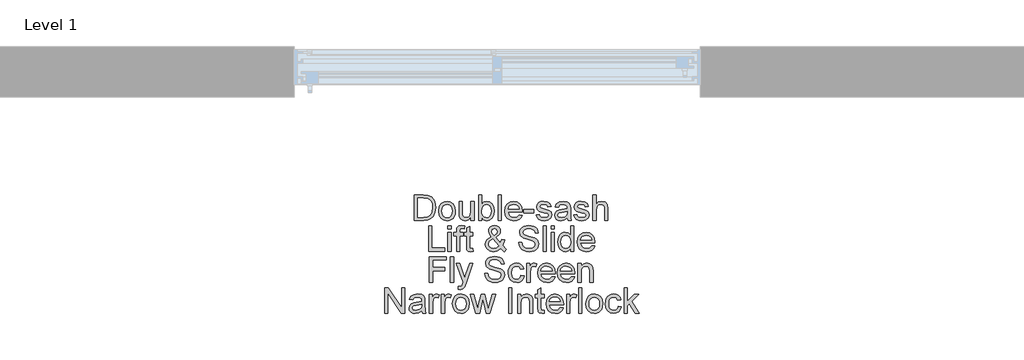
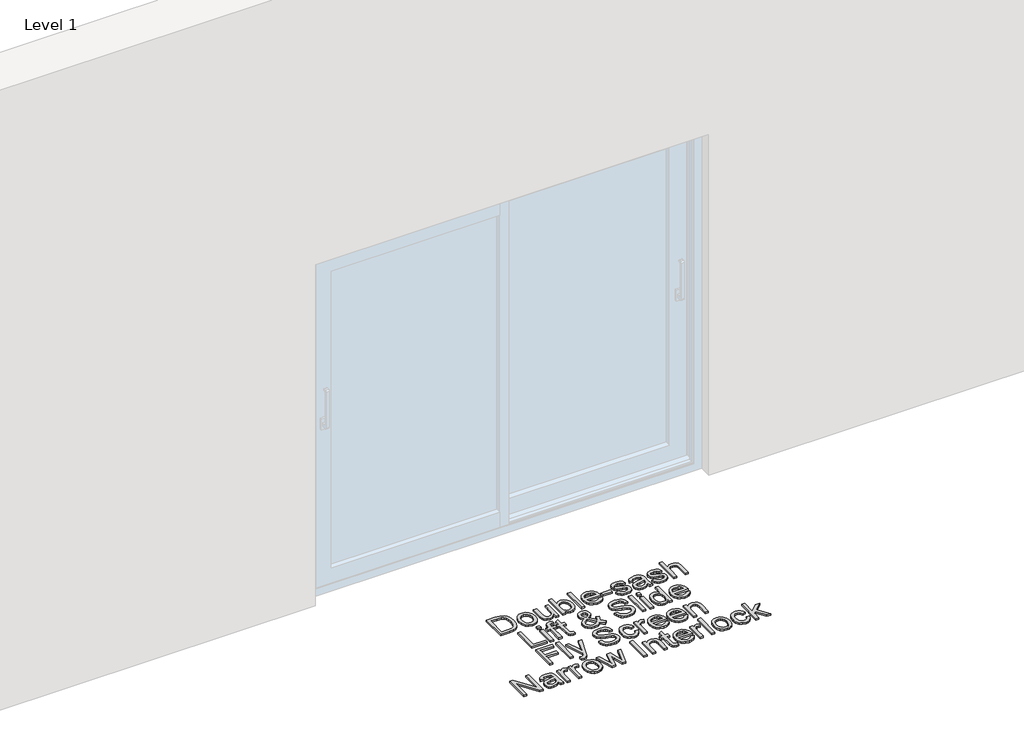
# One storey, part 6 of 13: 1 proxy.
"""IFC4 building model written with IfcOpenShell, lengths in millimetres."""

from ifc_helpers import new_model, si_unit, origin, origin_with_axes, place, context, project, spatial, polyline, outline, extrude, element, save

model = new_model("IFC4")

# Units and contexts
model_context = context("Model", 3, world=origin())
ifc_project = project(units=[si_unit("LENGTHUNIT", "METRE", prefix="MILLI")], contexts=[model_context])

# Site, building, storey
site = spatial("IfcSite", under=ifc_project)
building = spatial("IfcBuilding", under=site)
storey = spatial("IfcBuildingStorey", under=building, Name="Level 1", Elevation=0.0)

# Proxy
placement = place(None, origin())
element("IfcBuildingElementProxy", 1, Name="150mm Arial", ObjectType="150mm Arial", at=placement, inside=storey, context=model_context, shape_type="SweptSolid", body=[
    extrude(outline(polyline([(7088.4009515, -897.6627533), (7088.4009515, -746.9782881), (7140.3826774, -746.9782881), (7167.2748513, -749.1487919), (7189.4213474, -759.9277343), (7199.8416049, -771.4056526), (7207.2636242, -785.679474), (7211.7057993, -802.4732871), (7213.1865243, -821.5111803), (7209.1766105, -851.9166272), (7198.8759147, -873.8607883), (7185.1171281, -887.5276044), (7167.1093044, -895.0875794), (7142.884275, -897.6627533), (7088.4009515, -897.6627533)]), holes=[polyline([(7107.2365097, -878.8271952), (7140.5666184, -878.8271952), (7164.8100419, -876.1048684), (7178.7895577, -868.4161347), (7190.2490819, -849.7093353), (7194.3509661, -821.2168747), (7192.3414107, -800.6890594), (7186.3127445, -785.5323212), (7177.4054017, -775.1212607), (7166.7598165, -768.8304786), (7140.0515836, -765.8138463), (7107.2365097, -765.8138463), (7107.2365097, -878.8271952)])]), origin_with_axes(), (0.0, 0.0, 1.0), 10.0),
    extrude(outline(polyline([(7232.0220824, -842.3333013), (7236.0963755, -815.6526596), (7248.3192548, -796.8998749), (7263.4208107, -787.712022), (7281.5022108, -784.6494044), (7301.2896636, -788.3788081), (7317.0947938, -799.5670193), (7327.4552705, -817.3311212), (7330.9087627, -840.7881969), (7329.3820525, -859.8168931), (7324.8019216, -874.3022466), (7317.3017274, -885.150167), (7307.0148272, -893.2665635), (7294.7965464, -898.3295395), (7281.5022108, -900.0171981), (7261.4756347, -896.30159), (7245.6888986, -885.1547655), (7235.4387865, -867.0181831), (7232.0220824, -842.3333013)]), holes=[polyline([(7250.8576406, -842.2965131), (7253.0373414, -859.343245), (7259.5764439, -871.4879494), (7269.4172873, -878.7582173), (7281.5022108, -881.18164), (7293.531952, -878.7444217), (7303.3544013, -871.4327671), (7309.8935038, -859.1271143), (7312.0732046, -841.7079019), (7309.8797082, -825.1578106), (7303.299219, -813.1786531), (7293.4629742, -805.9083852), (7281.5022108, -803.4849626), (7269.4172873, -805.8991882), (7259.5764439, -813.141865), (7253.0373414, -825.2589782), (7250.8576406, -842.2965131)])]), origin_with_axes(), (0.0, 0.0, 1.0), 10.0),
    extrude(outline(polyline([(7422.7321087, -897.6627533), (7422.7321087, -878.6432542), (7407.9800407, -894.6737121), (7388.7398124, -900.0171981), (7371.0262943, -896.2648018), (7358.8126121, -886.8470227), (7353.2024117, -872.9778715), (7352.0987657, -855.4666885), (7352.0987657, -787.0038492), (7370.9343238, -787.0038492), (7370.9343238, -846.6007324), (7372.074758, -865.8041726), (7379.5243684, -877.0797557), (7393.5590665, -881.18164), (7409.2860218, -876.9877852), (7419.6786882, -865.5650493), (7422.7321087, -844.5773814), (7422.7321087, -787.0038492), (7441.5676669, -787.0038492), (7441.5676669, -897.6627533), (7422.7321087, -897.6627533)])), origin_with_axes(), (0.0, 0.0, 1.0), 10.0),
    extrude(outline(polyline([(7486.3021175, -897.6627533), (7467.4665594, -897.6627533), (7467.4665594, -746.9782881), (7486.3021175, -746.9782881), (7486.3021175, -802.8595632), (7499.490687, -789.2019441), (7515.8798299, -784.6494044), (7534.7521763, -788.7512887), (7549.3938797, -800.2843892), (7558.3885945, -818.2186365), (7561.6443501, -840.6778323), (7558.2736313, -865.8225667), (7548.161475, -884.5293661), (7533.322035, -896.1452401), (7515.7694653, -900.0171981), (7499.0216375, -895.0232), (7486.3021175, -880.0412058), (7486.3021175, -897.6627533)]), holes=[polyline([(7486.3021175, -841.5607491), (7487.5897045, -857.2693103), (7491.4524654, -867.9010999), (7501.3209, -877.861505), (7514.1507845, -881.18164), (7525.0216975, -878.7352247), (7534.3107179, -871.3959789), (7540.6842734, -859.2098878), (7542.808792, -842.2229367), (7540.7716454, -824.9876652), (7534.6602058, -812.9395299), (7525.6608925, -805.8486044), (7514.9601249, -803.4849626), (7504.089212, -805.9313778), (7494.8001916, -813.2706236), (7488.426636, -825.2359855), (7486.3021175, -841.5607491)])]), origin_with_axes(), (0.0, 0.0, 1.0), 10.0),
    extrude(outline(polyline([(7582.834353, -897.6627533), (7582.834353, -746.9782881), (7601.6699112, -746.9782881), (7601.6699112, -897.6627533), (7582.834353, -897.6627533)])), origin_with_axes(), (0.0, 0.0, 1.0), 10.0),
    extrude(outline(polyline([(7707.3991966, -864.7005266), (7725.8668728, -867.0549713), (7719.2128072, -880.9701078), (7708.5948131, -891.3719712), (7694.2520138, -897.8558914), (7676.4235326, -900.0171981), (7654.3230218, -896.2877944), (7637.3176765, -885.0995832), (7626.4743547, -867.1791315), (7622.8599141, -843.2530063), (7626.5111429, -818.5221391), (7637.4648293, -800.0268718), (7654.2402483, -788.4937713), (7675.3566748, -784.6494044), (7695.8155123, -788.4845742), (7712.1632684, -799.9900836), (7722.8824301, -818.4485627), (7726.455484, -843.1426417), (7726.3451194, -848.2194132), (7641.6954723, -848.2194132), (7644.9558265, -862.3184907), (7652.529597, -872.6835659), (7663.4602908, -879.0571214), (7676.7914146, -881.18164), (7695.2590908, -877.2453026), (7707.3991966, -864.7005266)]), holes=[polyline([(7641.6954723, -829.383855), (7707.6199258, -829.383855), (7705.072343, -819.4326471), (7700.0783449, -812.3141305), (7689.0970674, -805.6922545), (7675.2830984, -803.4849626), (7662.5865711, -805.2461976), (7652.0881386, -810.5299028), (7644.7902796, -818.765861), (7641.6954723, -829.383855)])]), origin_with_axes(), (0.0, 0.0, 1.0), 10.0),
    extrude(outline(polyline([(7735.873263, -852.9283027), (7735.873263, -834.0927446), (7794.7343823, -834.0927446), (7794.7343823, -852.9283027), (7735.873263, -852.9283027)])), origin_with_axes(), (0.0, 0.0, 1.0), 10.0),
    extrude(outline(polyline([(7808.8610509, -864.7005266), (7827.696609, -862.3460818), (7830.6672561, -870.4026975), (7836.4154123, -876.3255976), (7856.3914047, -881.18164), (7875.5948448, -876.7302678), (7881.8488387, -866.2824192), (7880.2761432, -861.4815591), (7875.5580566, -857.8211333), (7856.1706755, -852.4500561), (7827.8069736, -843.2346122), (7815.4277445, -832.4740638), (7811.2154956, -817.2805374), (7814.60001, -803.2458393), (7823.8338481, -792.5220791), (7835.808407, -786.9486669), (7852.0136089, -784.6494044), (7874.9326572, -788.3466185), (7889.5007842, -798.3530087), (7895.9755073, -815.2571864), (7877.1399492, -817.6116312), (7870.0582208, -807.2189648), (7853.4851369, -803.4849626), (7835.4589191, -807.0534179), (7830.0510538, -815.367551), (7832.295134, -820.8489927), (7839.3216801, -825.0060593), (7855.5452761, -829.015973), (7883.191608, -837.8819291), (7896.0306896, -847.9251076), (7900.6843969, -864.2958564), (7895.2213492, -882.3220741), (7879.4576058, -895.4002791), (7856.1338873, -900.0171981), (7837.1419793, -897.791512), (7823.2820251, -891.1144538), (7814.0297929, -880.0595999), (7808.8610509, -864.7005266)])), origin_with_axes(), (0.0, 0.0, 1.0), 10.0),
    extrude(outline(polyline([(7992.5077429, -883.5360847), (7974.2424018, -896.30159), (7954.0640744, -900.0171981), (7938.3233235, -897.782315), (7926.712048, -891.0776656), (7919.5521447, -880.8965314), (7917.1655103, -868.2321937), (7920.7707538, -853.3329729), (7930.2437152, -842.5172423), (7943.4322847, -836.3368247), (7959.7294571, -833.5041334), (7992.3973783, -827.0294103), (7992.5077429, -822.8355555), (7991.2109588, -814.4294519), (7987.3206067, -808.9296161), (7978.6201976, -804.846126), (7966.4984858, -803.4849626), (7947.4421985, -807.1086002), (7938.3555132, -819.966076), (7919.519955, -817.6116312), (7927.6685412, -799.2175314), (7944.0760782, -788.438589), (7968.926507, -784.6494044), (7991.7535848, -787.9971306), (8004.6478487, -796.4032342), (8010.423596, -809.1871335), (8011.343301, -825.6682469), (8011.343301, -849.10233), (8012.2997942, -881.8254334), (8016.0521906, -897.6627533), (7997.2166324, -897.6627533), (7992.5077429, -883.5360847)]), holes=[polyline([(7992.5077429, -845.8649684), (7962.1206901, -851.6407157), (7945.9154882, -854.6941363), (7938.5762424, -859.6605432), (7936.0010684, -866.9078185), (7941.6112688, -877.0981498), (7958.0739881, -881.18164), (7977.1302755, -876.6750855), (7989.4175341, -865.7673844), (7992.3973783, -851.1992574), (7992.5077429, -845.8649684)])]), origin_with_axes(), (0.0, 0.0, 1.0), 10.0),
    extrude(outline(polyline([(8030.1788592, -864.7005266), (8049.0144173, -862.3460818), (8051.9850644, -870.4026975), (8057.7332206, -876.3255976), (8077.709213, -881.18164), (8096.9126531, -876.7302678), (8103.166647, -866.2824192), (8101.5939515, -861.4815591), (8096.8758649, -857.8211333), (8077.4884838, -852.4500561), (8049.1247819, -843.2346122), (8036.7455528, -832.4740638), (8032.5333039, -817.2805374), (8035.9178183, -803.2458393), (8045.1516564, -792.5220791), (8057.1262153, -786.9486669), (8073.3314172, -784.6494044), (8096.2504655, -788.3466185), (8110.8185925, -798.3530087), (8117.2933156, -815.2571864), (8098.4577575, -817.6116312), (8091.3760291, -807.2189648), (8074.8029452, -803.4849626), (8056.7767274, -807.0534179), (8051.3688621, -815.367551), (8053.6129423, -820.8489927), (8060.6394884, -825.0060593), (8076.8630844, -829.015973), (8104.5094163, -837.8819291), (8117.3484979, -847.9251076), (8122.0022052, -864.2958564), (8116.5391575, -882.3220741), (8100.7754141, -895.4002791), (8077.4516956, -900.0171981), (8058.4597876, -897.791512), (8044.5998334, -891.1144538), (8035.3476012, -880.0595999), (8030.1788592, -864.7005266)])), origin_with_axes(), (0.0, 0.0, 1.0), 10.0),
    extrude(outline(polyline([(8143.1922081, -897.6627533), (8143.1922081, -746.9782881), (8162.0277662, -746.9782881), (8162.0277662, -802.3813166), (8176.7154549, -789.0823825), (8194.806052, -784.6494044), (8215.9592667, -789.4870527), (8228.7983484, -802.8595632), (8232.6611093, -827.6180215), (8232.6611093, -897.6627533), (8213.8255512, -897.6627533), (8213.8255512, -829.567796), (8212.326432, -817.7771781), (8207.8290746, -809.7021683), (8200.5817993, -805.039264), (8190.8329265, -803.4849626), (8175.4002768, -807.6788173), (8165.0995809, -819.046371), (8162.0277662, -838.8752105), (8162.0277662, -897.6627533), (8143.1922081, -897.6627533)])), origin_with_axes(), (0.0, 0.0, 1.0), 10.0),
    extrude(outline(polyline([(7173.1609632, -1080.6249801), (7173.1609632, -929.9405149), (7191.9965214, -929.9405149), (7191.9965214, -1061.789422), (7267.338754, -1061.789422), (7267.338754, -1080.6249801), (7173.1609632, -1080.6249801)])), origin_with_axes(), (0.0, 0.0, 1.0), 10.0),
    extrude(outline(polyline([(7286.1743121, -948.776073), (7286.1743121, -929.9405149), (7305.0098703, -929.9405149), (7305.0098703, -948.776073), (7286.1743121, -948.776073)])), origin_with_axes(), (0.0, 0.0, 1.0), 10.0),
    extrude(outline(polyline([(7286.1743121, -1080.6249801), (7286.1743121, -969.966076), (7305.0098703, -969.966076), (7305.0098703, -1080.6249801), (7286.1743121, -1080.6249801)])), origin_with_axes(), (0.0, 0.0, 1.0), 10.0),
    extrude(outline(polyline([(7337.9720971, -1080.6249801), (7337.9720971, -988.8016341), (7321.4909837, -988.8016341), (7321.4909837, -969.966076), (7337.9720971, -969.966076), (7337.9720971, -958.8192515), (7339.9586598, -943.1106903), (7349.5971681, -931.8902895), (7368.5798791, -927.5860701), (7385.7599682, -929.6462093), (7383.0008533, -947.3045451), (7372.1483344, -946.4216283), (7360.2841401, -949.5486252), (7356.8076552, -961.2104845), (7356.8076552, -969.966076), (7377.9976581, -969.966076), (7377.9976581, -988.8016341), (7356.8076552, -988.8016341), (7356.8076552, -1080.6249801), (7337.9720971, -1080.6249801)])), origin_with_axes(), (0.0, 0.0, 1.0), 10.0),
    extrude(outline(polyline([(7434.5043326, -1064.9164189), (7436.8587774, -1081.1768031), (7422.7688969, -1082.9794249), (7406.9867593, -1079.8524279), (7399.1140847, -1071.6486594), (7396.8332163, -1050.2747155), (7396.8332163, -988.8016341), (7382.7065477, -988.8016341), (7382.7065477, -969.966076), (7396.8332163, -969.966076), (7396.8332163, -943.0739021), (7415.6687744, -932.0006541), (7415.6687744, -969.966076), (7434.5043326, -969.966076), (7434.5043326, -988.8016341), (7415.6687744, -988.8016341), (7415.6687744, -1049.7228925), (7416.6620558, -1059.4349772), (7419.8810233, -1062.8746738), (7426.3005641, -1064.1438667), (7434.5043326, -1064.9164189)])), origin_with_axes(), (0.0, 0.0, 1.0), 10.0),
    extrude(outline(polyline([(7598.6164906, -1062.0101512), (7578.6404983, -1077.7371064), (7555.2799916, -1082.9794249), (7534.4946589, -1079.0982698), (7518.4917921, -1067.4548047), (7510.2420383, -1054.054703), (7507.4921204, -1039.1646793), (7509.7040109, -1025.9669127), (7516.3396824, -1014.1119154), (7527.3715437, -1003.6088844), (7542.7720038, -994.4670168), (7529.6202224, -975.4107295), (7526.3276786, -961.2840609), (7528.9212467, -948.5645409), (7536.7019508, -937.6292486), (7548.4097953, -930.0968647), (7562.7847843, -927.5860701), (7576.4607975, -929.9865001), (7587.3960898, -937.1877902), (7594.5697887, -947.7552005), (7596.9610217, -960.2539913), (7595.1905896, -970.7478252), (7589.8792933, -980.4507128), (7568.634108, -997.4836492), (7595.8941639, -1031.4391574), (7604.024356, -1010.5802482), (7622.8599141, -1014.6637384), (7609.5425859, -1045.6761906), (7632.2776932, -1068.4848743), (7618.1510246, -1082.9794249), (7598.6164906, -1062.0101512)]), holes=[polyline([(7559.1059644, -985.6010608), (7574.5937964, -973.9208074), (7578.1254635, -962.8291653), (7573.4717563, -951.0017591), (7561.8282911, -946.4216283), (7549.9273086, -950.9649709), (7545.1632367, -962.0566131), (7546.7819175, -968.9544005), (7551.6747481, -976.6247401), (7559.1059644, -985.6010608)]), polyline([(7585.9981382, -1048.4353055), (7552.3737238, -1006.4599699), (7531.6803616, -1022.2421075), (7526.3276786, -1036.6630817), (7528.1578915, -1045.5474319), (7533.6485303, -1054.7628758), (7542.4960923, -1061.798619), (7554.3970748, -1064.1438667), (7571.7059227, -1059.766071), (7585.9981382, -1048.4353055)])]), origin_with_axes(), (0.0, 0.0, 1.0), 10.0),
    extrude(outline(polyline([(7705.265481, -1028.8271952), (7724.1010392, -1028.8271952), (7730.1710921, -1047.6811474), (7744.9967365, -1059.6005241), (7767.584691, -1064.1438667), (7787.2663778, -1060.7041701), (7799.9767007, -1051.2496028), (7804.1521613, -1038.6128563), (7801.0251644, -1026.8590265), (7788.222871, -1018.3057701), (7760.7972682, -1011.1136771), (7731.2747381, -1001.8246567), (7715.2534772, -987.8083527), (7709.9743706, -969.0831592), (7711.6068469, -958.0512978), (7716.504276, -947.7643976), (7724.5378991, -939.0455943), (7735.5789574, -932.7180239), (7763.5012009, -927.5860701), (7793.2996425, -932.9571472), (7804.7223784, -939.5882202), (7813.1652702, -948.7392848), (7818.5087562, -959.840124), (7820.6332747, -972.3205207), (7801.7977166, -972.3205207), (7798.3396258, -961.0817258), (7791.1291387, -952.9699278), (7779.8627526, -948.0587031), (7764.2369649, -946.4216283), (7748.2432951, -948.040309), (7737.2712146, -952.8963514), (7730.9252502, -960.0424591), (7728.8099287, -968.5313362), (7730.3090479, -975.7694144), (7734.8064053, -981.591147), (7765.56134, -992.1125721), (7798.8914488, -1001.5671393), (7809.6290045, -1008.4005474), (7817.1200017, -1016.8342421), (7821.52079, -1026.7762531), (7822.9877195, -1038.1346097), (7821.3000608, -1049.7458851), (7816.2370849, -1060.6673819), (7808.0057252, -1070.0667668), (7796.8129155, -1077.1117071), (7783.353033, -1081.5124954), (7768.320455, -1082.9794249), (7749.8665744, -1081.3975323), (7734.6776466, -1076.6518546), (7722.5789274, -1068.7239976), (7713.3956731, -1057.5955672), (7707.5003642, -1044.0391157), (7705.265481, -1028.8271952)])), origin_with_axes(), (0.0, 0.0, 1.0), 10.0),
    extrude(outline(polyline([(7848.886612, -1080.6249801), (7848.886612, -929.9405149), (7867.7221701, -929.9405149), (7867.7221701, -1080.6249801), (7848.886612, -1080.6249801)])), origin_with_axes(), (0.0, 0.0, 1.0), 10.0),
    extrude(outline(polyline([(7895.9755073, -948.776073), (7895.9755073, -929.9405149), (7914.8110655, -929.9405149), (7914.8110655, -948.776073), (7895.9755073, -948.776073)])), origin_with_axes(), (0.0, 0.0, 1.0), 10.0),
    extrude(outline(polyline([(7895.9755073, -1080.6249801), (7895.9755073, -969.966076), (7914.8110655, -969.966076), (7914.8110655, -1080.6249801), (7895.9755073, -1080.6249801)])), origin_with_axes(), (0.0, 0.0, 1.0), 10.0),
    extrude(outline(polyline([(8011.343301, -1080.6249801), (8011.343301, -1062.8562797), (7998.8812984, -1077.9486386), (7981.655224, -1082.9794249), (7969.47833, -1081.158409), (7958.3315055, -1075.6953614), (7948.8953323, -1066.9719596), (7941.8503921, -1055.3698811), (7937.4633993, -1041.3581756), (7936.0010684, -1025.4058926), (7941.3905396, -995.42351), (7948.1227802, -983.5317245), (7957.5405592, -974.7853301), (7968.9311055, -969.4050559), (7981.5816476, -967.6116312), (7998.9456778, -972.743585), (8011.343301, -986.0793073), (8011.343301, -929.9405149), (8030.1788592, -929.9405149), (8030.1788592, -1080.6249801), (8011.343301, -1080.6249801)]), holes=[polyline([(7954.8366266, -1025.3323162), (7956.9611451, -1042.3698511), (7963.3347007, -1054.4869644), (7972.5961299, -1061.7296411), (7983.3842694, -1064.1438667), (7994.1678104, -1061.8400057), (8003.1947148, -1054.9284227), (8009.3061545, -1043.2803591), (8011.343301, -1026.767056), (8009.2693663, -1008.7132471), (8003.047562, -996.1960622), (7993.7907313, -988.8844076), (7982.6117172, -986.4471893), (7971.7132131, -988.7878385), (7962.7828777, -995.8097861), (7956.8231893, -1007.871717), (7954.8366266, -1025.3323162)])]), origin_with_axes(), (0.0, 0.0, 1.0), 10.0),
    extrude(outline(polyline([(8135.9081446, -1047.6627533), (8154.3758208, -1050.0171981), (8147.7217552, -1063.9323346), (8137.1037611, -1074.334198), (8122.7609618, -1080.8181182), (8104.9324806, -1082.9794249), (8082.8319697, -1079.2500212), (8065.8266245, -1068.06181), (8054.9833027, -1050.1413583), (8051.3688621, -1026.215233), (8055.0200909, -1001.4843659), (8065.9737773, -982.9890986), (8082.7491963, -971.455998), (8103.8656228, -967.6116312), (8124.3244603, -971.446801), (8140.6722164, -982.9523104), (8151.3913781, -1001.4107895), (8154.9644319, -1026.1048684), (8154.8540673, -1031.18164), (8070.2044203, -1031.18164), (8073.4647744, -1045.2807174), (8081.038545, -1055.6457926), (8091.9692388, -1062.0193482), (8105.3003626, -1064.1438667), (8123.7680388, -1060.2075294), (8135.9081446, -1047.6627533)]), holes=[polyline([(8070.2044203, -1012.3460818), (8136.1288738, -1012.3460818), (8133.581291, -1002.3948738), (8128.5872929, -995.2763572), (8117.6060153, -988.6544813), (8103.7920464, -986.4471893), (8091.0955191, -988.2084244), (8080.5970866, -993.4921296), (8073.2992275, -1001.7280877), (8070.2044203, -1012.3460818)])]), origin_with_axes(), (0.0, 0.0, 1.0), 10.0),
    extrude(outline(polyline([(7176.6926304, -1263.5872069), (7176.6926304, -1112.9027417), (7277.9337554, -1112.9027417), (7277.9337554, -1131.7382998), (7195.5281885, -1131.7382998), (7195.5281885, -1176.4727504), (7266.1615316, -1176.4727504), (7266.1615316, -1195.3083086), (7195.5281885, -1195.3083086), (7195.5281885, -1263.5872069), (7176.6926304, -1263.5872069)])), origin_with_axes(), (0.0, 0.0, 1.0), 10.0),
    extrude(outline(polyline([(7301.4782031, -1263.5872069), (7301.4782031, -1112.9027417), (7320.3137613, -1112.9027417), (7320.3137613, -1263.5872069), (7301.4782031, -1263.5872069)])), origin_with_axes(), (0.0, 0.0, 1.0), 10.0),
    extrude(outline(polyline([(7348.5670985, -1305.9672127), (7346.2126537, -1287.8306304), (7355.7775856, -1289.4860993), (7364.7171181, -1287.4075661), (7370.1985598, -1281.6134246), (7375.3489078, -1267.7442734), (7376.8204357, -1263.1825367), (7336.7948747, -1152.9283027), (7356.6605024, -1152.9283027), (7377.8872935, -1214.3645959), (7385.2817216, -1238.9391132), (7392.6761497, -1217.2340755), (7414.4915521, -1152.9283027), (7434.210027, -1152.9283027), (7395.6927821, -1266.2359572), (7385.6863918, -1290.8104745), (7374.7602966, -1304.0910145), (7360.081805, -1308.3216575), (7348.5670985, -1305.9672127)])), origin_with_axes(), (0.0, 0.0, 1.0), 10.0),
    extrude(outline(polyline([(7503.9604533, -1211.789422), (7522.7960114, -1211.789422), (7528.8660644, -1230.6433742), (7543.6917088, -1242.5627509), (7566.2796633, -1247.1060935), (7585.96135, -1243.6663968), (7598.6716729, -1234.2118296), (7602.8471336, -1221.575083), (7599.7201366, -1209.8212533), (7586.9178432, -1201.2679969), (7559.4922404, -1194.0759039), (7529.9697103, -1184.7868835), (7513.9484494, -1170.7705795), (7508.6693428, -1152.0453859), (7510.3018192, -1141.0135246), (7515.1992482, -1130.7266243), (7523.2328713, -1122.007821), (7534.2739297, -1115.6802507), (7562.1961731, -1110.5482969), (7591.9946147, -1115.919374), (7603.4173507, -1122.550447), (7611.8602425, -1131.7015116), (7617.2037284, -1142.8023508), (7619.328247, -1155.2827475), (7600.4926888, -1155.2827475), (7597.0345981, -1144.0439525), (7589.824111, -1135.9321546), (7578.5577248, -1131.0209299), (7562.9319371, -1129.383855), (7546.9382674, -1131.0025358), (7535.9661869, -1135.8585782), (7529.6202224, -1143.0046859), (7527.504901, -1151.4935629), (7529.0040201, -1158.7316412), (7533.5013775, -1164.5533738), (7564.2563123, -1175.0747988), (7597.5864211, -1184.5293661), (7608.3239768, -1191.3627742), (7615.8149739, -1199.7964689), (7620.2157623, -1209.7384798), (7621.6826917, -1221.0968364), (7619.9950331, -1232.7081119), (7614.9320571, -1243.6296086), (7606.7006975, -1253.0289936), (7595.5078878, -1260.0739338), (7582.0480053, -1264.4747222), (7567.0154273, -1265.9416516), (7548.5615467, -1264.3597591), (7533.3726188, -1259.6140813), (7521.2738997, -1251.6862243), (7512.0906454, -1240.557794), (7506.1953364, -1227.0013425), (7503.9604533, -1211.789422)])), origin_with_axes(), (0.0, 0.0, 1.0), 10.0),
    extrude(outline(polyline([(7718.2149273, -1223.5616458), (7737.0504854, -1225.9160906), (7731.7989699, -1242.6685169), (7721.9305354, -1255.3282561), (7708.3740839, -1263.2883028), (7692.0585174, -1265.9416516), (7672.0227442, -1262.2398391), (7656.3555698, -1251.1344013), (7646.2434134, -1233.1127821), (7642.8726947, -1208.662425), (7644.312033, -1191.9008016), (7648.6300479, -1177.3740613), (7655.8957173, -1165.6432242), (7666.1780191, -1157.2693103), (7678.4790733, -1152.247721), (7691.801, -1150.573858), (7707.7164948, -1152.8731204), (7720.4406133, -1159.7709078), (7729.5686853, -1170.8993382), (7734.6960407, -1185.8905295), (7715.8604825, -1188.2449743), (7707.1232851, -1174.1366998), (7691.9481528, -1169.4094161), (7679.7758573, -1171.7362697), (7670.1143564, -1178.7168306), (7663.8097787, -1190.7281777), (7661.7082528, -1208.1473902), (7663.7637935, -1225.8011274), (7669.9304154, -1237.8538613), (7679.4171724, -1244.7930354), (7691.433118, -1247.1060935), (7701.1865894, -1245.6621567), (7709.1834243, -1241.3303462), (7715.0005583, -1234.0002974), (7718.2149273, -1223.5616458)])), origin_with_axes(), (0.0, 0.0, 1.0), 10.0),
    extrude(outline(polyline([(7753.5315988, -1263.5872069), (7753.5315988, -1152.9283027), (7770.0127122, -1152.9283027), (7770.0127122, -1169.2990515), (7781.7113596, -1154.2158897), (7793.4835835, -1150.573858), (7812.392718, -1156.3863935), (7806.1019359, -1173.2721771), (7792.8581841, -1169.4094161), (7782.2080003, -1173.1250243), (7775.4205775, -1183.4257201), (7772.367157, -1205.4250634), (7772.367157, -1263.5872069), (7753.5315988, -1263.5872069)])), origin_with_axes(), (0.0, 0.0, 1.0), 10.0),
    extrude(outline(polyline([(7901.6408901, -1230.6249801), (7920.1085662, -1232.9794249), (7913.4545006, -1246.8945613), (7902.8365065, -1257.2964248), (7888.4937073, -1263.7803449), (7870.6652261, -1265.9416516), (7848.5647152, -1262.2122479), (7831.55937, -1251.0240367), (7820.7160482, -1233.1035851), (7817.1016076, -1209.1774598), (7820.7528364, -1184.4465927), (7831.7065228, -1165.9513254), (7848.4819418, -1154.4182248), (7869.5983683, -1150.573858), (7890.0572057, -1154.4090278), (7906.4049619, -1165.9145372), (7917.1241235, -1184.3730163), (7920.6971774, -1209.0670952), (7920.5868128, -1214.1438667), (7835.9371657, -1214.1438667), (7839.1975199, -1228.2429442), (7846.7712905, -1238.6080194), (7857.7019843, -1244.981575), (7871.0331081, -1247.1060935), (7889.5007842, -1243.1697561), (7901.6408901, -1230.6249801)]), holes=[polyline([(7835.9371657, -1195.3083086), (7901.8616193, -1195.3083086), (7899.3140364, -1185.3571006), (7894.3200384, -1178.238584), (7883.3387608, -1171.6167081), (7869.5247919, -1169.4094161), (7856.8282645, -1171.1706512), (7846.3298321, -1176.4543563), (7839.031973, -1184.6903145), (7835.9371657, -1195.3083086)])]), origin_with_axes(), (0.0, 0.0, 1.0), 10.0),
    extrude(outline(polyline([(8017.0086838, -1230.6249801), (8035.4763599, -1232.9794249), (8028.8222943, -1246.8945613), (8018.2043002, -1257.2964248), (8003.8615009, -1263.7803449), (7986.0330198, -1265.9416516), (7963.9325089, -1262.2122479), (7946.9271637, -1251.0240367), (7936.0838419, -1233.1035851), (7932.4694013, -1209.1774598), (7936.1206301, -1184.4465927), (7947.0743165, -1165.9513254), (7963.8497354, -1154.4182248), (7984.966162, -1150.573858), (8005.4249994, -1154.4090278), (8021.7727556, -1165.9145372), (8032.4919172, -1184.3730163), (8036.0649711, -1209.0670952), (8035.9546065, -1214.1438667), (7951.3049594, -1214.1438667), (7954.5653136, -1228.2429442), (7962.1390842, -1238.6080194), (7973.069778, -1244.981575), (7986.4009018, -1247.1060935), (8004.8685779, -1243.1697561), (8017.0086838, -1230.6249801)]), holes=[polyline([(7951.3049594, -1195.3083086), (8017.2294129, -1195.3083086), (8014.6818301, -1185.3571006), (8009.687832, -1178.238584), (7998.7065545, -1171.6167081), (7984.8925856, -1169.4094161), (7972.1960582, -1171.1706512), (7961.6976258, -1176.4543563), (7954.3997667, -1184.6903145), (7951.3049594, -1195.3083086)])]), origin_with_axes(), (0.0, 0.0, 1.0), 10.0),
    extrude(outline(polyline([(8054.9005293, -1263.5872069), (8054.9005293, -1152.9283027), (8073.7360874, -1152.9283027), (8073.7360874, -1168.3793465), (8088.1386675, -1155.0252301), (8107.8019602, -1150.573858), (8125.5890546, -1154.1607074), (8137.7291605, -1163.5784865), (8143.3761491, -1177.4292436), (8144.3694305, -1195.6394024), (8144.3694305, -1263.5872069), (8125.5338723, -1263.5872069), (8125.5338723, -1198.1777881), (8123.3633686, -1181.5127338), (8115.693029, -1172.70196), (8102.7619768, -1169.4094161), (8091.7301155, -1171.2580231), (8082.326132, -1176.8038442), (8075.8835986, -1187.5184073), (8073.7360874, -1204.8732404), (8073.7360874, -1263.5872069), (8054.9005293, -1263.5872069)])), origin_with_axes(), (0.0, 0.0, 1.0), 10.0),
    extrude(outline(polyline([(6912.9948162, -1446.5494336), (6912.9948162, -1295.8649684), (6933.1547496, -1295.8649684), (7011.8814965, -1415.2426759), (7011.8814965, -1295.8649684), (7030.7170547, -1295.8649684), (7030.7170547, -1446.5494336), (7010.5571213, -1446.5494336), (6931.8303744, -1327.134938), (6931.8303744, -1446.5494336), (6912.9948162, -1446.5494336)])), origin_with_axes(), (0.0, 0.0, 1.0), 10.0),
    extrude(outline(polyline([(7131.9581798, -1432.422765), (7113.6928387, -1445.1882703), (7093.5145113, -1448.9038784), (7077.7737604, -1446.6689953), (7066.1624849, -1439.9643459), (7059.0025816, -1429.7832117), (7056.6159471, -1417.118874), (7060.2211907, -1402.2196532), (7069.6941521, -1391.4039226), (7082.8827216, -1385.223505), (7099.179894, -1382.3908137), (7131.8478152, -1375.9160906), (7131.9581798, -1371.7222358), (7130.6613957, -1363.3161322), (7126.7710436, -1357.8162964), (7118.0706344, -1353.7328063), (7105.9489227, -1352.3716429), (7086.8926353, -1355.9952805), (7077.8059501, -1368.8527563), (7058.9703919, -1366.4983115), (7067.1189781, -1348.1042117), (7083.5265151, -1337.3252693), (7108.3769439, -1333.5360847), (7131.2040217, -1336.8838109), (7144.0982856, -1345.2899145), (7149.8740329, -1358.0738138), (7150.7937379, -1374.5549272), (7150.7937379, -1397.9890103), (7151.7502311, -1430.7121138), (7155.5026274, -1446.5494336), (7136.6670693, -1446.5494336), (7131.9581798, -1432.422765)]), holes=[polyline([(7131.9581798, -1394.7516487), (7101.571127, -1400.527396), (7085.3659251, -1403.5808166), (7078.0266793, -1408.5472235), (7075.4515053, -1415.7944988), (7081.0617057, -1425.9848301), (7097.524425, -1430.0683203), (7116.5807124, -1425.5617658), (7128.867971, -1414.6540647), (7131.8478152, -1400.0859377), (7131.9581798, -1394.7516487)])]), origin_with_axes(), (0.0, 0.0, 1.0), 10.0),
    extrude(outline(polyline([(7176.6926304, -1446.5494336), (7176.6926304, -1335.8905295), (7193.1737438, -1335.8905295), (7193.1737438, -1352.2612783), (7204.8723912, -1337.1781165), (7216.644615, -1333.5360847), (7235.5537496, -1339.3486203), (7229.2629675, -1356.2344038), (7216.0192157, -1352.3716429), (7205.3690319, -1356.087251), (7198.5816091, -1366.3879469), (7195.5281885, -1388.3872902), (7195.5281885, -1446.5494336), (7176.6926304, -1446.5494336)])), origin_with_axes(), (0.0, 0.0, 1.0), 10.0),
    extrude(outline(polyline([(7247.3259734, -1446.5494336), (7247.3259734, -1335.8905295), (7263.8070868, -1335.8905295), (7263.8070868, -1352.2612783), (7275.5057343, -1337.1781165), (7287.2779581, -1333.5360847), (7306.1870927, -1339.3486203), (7299.8963106, -1356.2344038), (7286.6525587, -1352.3716429), (7276.002375, -1356.087251), (7269.2149522, -1366.3879469), (7266.1615316, -1388.3872902), (7266.1615316, -1446.5494336), (7247.3259734, -1446.5494336)])), origin_with_axes(), (0.0, 0.0, 1.0), 10.0),
    extrude(outline(polyline([(7313.250427, -1391.2199816), (7317.3247201, -1364.5393399), (7329.5475994, -1345.7865552), (7344.6491553, -1336.5987023), (7362.7305553, -1333.5360847), (7382.5180081, -1337.2654885), (7398.3231384, -1348.4536996), (7408.6836151, -1366.2178015), (7412.1371073, -1389.6748772), (7410.610397, -1408.7035734), (7406.0302662, -1423.188927), (7398.530072, -1434.0368473), (7388.2431717, -1442.1532438), (7376.0248909, -1447.2162198), (7362.7305553, -1448.9038784), (7342.7039792, -1445.1882703), (7326.9172431, -1434.0414458), (7316.667131, -1415.9048634), (7313.250427, -1391.2199816)]), holes=[polyline([(7332.0859851, -1391.1831934), (7334.265686, -1408.2299253), (7340.8047884, -1420.3746297), (7350.6456318, -1427.6448976), (7362.7305553, -1430.0683203), (7374.7602966, -1427.631102), (7384.5827458, -1420.3194474), (7391.1218483, -1408.0137947), (7393.3015491, -1390.5945822), (7391.1080527, -1374.0444909), (7384.5275635, -1362.0653335), (7374.6913187, -1354.7950655), (7362.7305553, -1352.3716429), (7350.6456318, -1354.7858685), (7340.8047884, -1362.0285453), (7334.265686, -1374.1456585), (7332.0859851, -1391.1831934)])]), origin_with_axes(), (0.0, 0.0, 1.0), 10.0),
    extrude(outline(polyline([(7451.6844218, -1446.5494336), (7418.0232192, -1335.8905295), (7437.5945413, -1335.8905295), (7456.6876169, -1400.4538196), (7462.3897878, -1423.5200207), (7467.0618892, -1401.2999482), (7482.2554156, -1335.8905295), (7504.6962173, -1335.8905295), (7519.8161673, -1401.1160072), (7523.9732338, -1421.2391524), (7529.9329221, -1400.0123613), (7549.0627859, -1335.8905295), (7568.7076844, -1335.8905295), (7534.7889645, -1446.5494336), (7512.017069, -1446.5494336), (7497.5593066, -1381.6550497), (7493.3654518, -1361.42154), (7474.7138347, -1446.5494336), (7451.6844218, -1446.5494336)])), origin_with_axes(), (0.0, 0.0, 1.0), 10.0),
    extrude(outline(polyline([(7645.2271394, -1446.5494336), (7645.2271394, -1295.8649684), (7664.0626976, -1295.8649684), (7664.0626976, -1446.5494336), (7645.2271394, -1446.5494336)])), origin_with_axes(), (0.0, 0.0, 1.0), 10.0),
    extrude(outline(polyline([(7699.3793691, -1446.5494336), (7699.3793691, -1335.8905295), (7718.2149273, -1335.8905295), (7718.2149273, -1351.3415733), (7732.6175074, -1337.9874569), (7752.2808, -1333.5360847), (7770.0678945, -1337.1229342), (7782.2080003, -1346.5407133), (7787.854989, -1360.3914704), (7788.8482703, -1378.6016291), (7788.8482703, -1446.5494336), (7770.0127122, -1446.5494336), (7770.0127122, -1381.1400149), (7767.8422084, -1364.4749605), (7760.1718688, -1355.6641867), (7747.2408167, -1352.3716429), (7736.2089554, -1354.2202499), (7726.8049719, -1359.766071), (7720.3624384, -1370.4806341), (7718.2149273, -1387.8354672), (7718.2149273, -1446.5494336), (7699.3793691, -1446.5494336)])), origin_with_axes(), (0.0, 0.0, 1.0), 10.0),
    extrude(outline(polyline([(7854.7727239, -1430.8408725), (7857.1271686, -1447.1012566), (7843.0372882, -1448.9038784), (7827.2551506, -1445.7768815), (7819.3824759, -1437.573113), (7817.1016076, -1416.199169), (7817.1016076, -1354.7260876), (7802.974939, -1354.7260876), (7802.974939, -1335.8905295), (7817.1016076, -1335.8905295), (7817.1016076, -1308.9983556), (7835.9371657, -1297.9251076), (7835.9371657, -1335.8905295), (7854.7727239, -1335.8905295), (7854.7727239, -1354.7260876), (7835.9371657, -1354.7260876), (7835.9371657, -1415.6473461), (7836.9304471, -1425.3594307), (7840.1494146, -1428.7991274), (7846.5689554, -1430.0683203), (7854.7727239, -1430.8408725)])), origin_with_axes(), (0.0, 0.0, 1.0), 10.0),
    extrude(outline(polyline([(7951.0842302, -1413.5872069), (7969.5519064, -1415.9416516), (7962.8978408, -1429.8567881), (7952.2798467, -1440.2586515), (7937.9370474, -1446.7425717), (7920.1085662, -1448.9038784), (7898.0080554, -1445.1744747), (7881.0027101, -1433.9862635), (7870.1593883, -1416.0658118), (7866.5449477, -1392.1396866), (7870.1961765, -1367.4088194), (7881.1498629, -1348.9135521), (7897.9252819, -1337.3804516), (7919.0417084, -1333.5360847), (7939.5005459, -1337.3712545), (7955.8483021, -1348.8767639), (7966.5674637, -1367.335243), (7970.1405176, -1392.029322), (7970.030153, -1397.1060935), (7885.3805059, -1397.1060935), (7888.6408601, -1411.205171), (7896.2146306, -1421.5702462), (7907.1453244, -1427.9438017), (7920.4764482, -1430.0683203), (7938.9441244, -1426.1319829), (7951.0842302, -1413.5872069)]), holes=[polyline([(7885.3805059, -1378.2705353), (7951.3049594, -1378.2705353), (7948.7573766, -1368.3193274), (7943.7633785, -1361.2008108), (7932.782101, -1354.5789349), (7918.968132, -1352.3716429), (7906.2716047, -1354.1328779), (7895.7731722, -1359.4165831), (7888.4753132, -1367.6525413), (7885.3805059, -1378.2705353)])]), origin_with_axes(), (0.0, 0.0, 1.0), 10.0),
    extrude(outline(polyline([(7988.9760757, -1446.5494336), (7988.9760757, -1335.8905295), (8005.4571891, -1335.8905295), (8005.4571891, -1352.2612783), (8017.1558365, -1337.1781165), (8028.9280604, -1333.5360847), (8047.8371949, -1339.3486203), (8041.5464128, -1356.2344038), (8028.302661, -1352.3716429), (8017.6524772, -1356.087251), (8010.8650544, -1366.3879469), (8007.8116339, -1388.3872902), (8007.8116339, -1446.5494336), (7988.9760757, -1446.5494336)])), origin_with_axes(), (0.0, 0.0, 1.0), 10.0),
    extrude(outline(polyline([(8059.6094188, -1446.5494336), (8059.6094188, -1295.8649684), (8078.4449769, -1295.8649684), (8078.4449769, -1446.5494336), (8059.6094188, -1446.5494336)])), origin_with_axes(), (0.0, 0.0, 1.0), 10.0),
    extrude(outline(polyline([(8101.9894246, -1391.2199816), (8106.0637177, -1364.5393399), (8118.286597, -1345.7865552), (8133.3881529, -1336.5987023), (8151.469553, -1333.5360847), (8171.2570058, -1337.2654885), (8187.062136, -1348.4536996), (8197.4226127, -1366.2178015), (8200.8761049, -1389.6748772), (8199.3493947, -1408.7035734), (8194.7692638, -1423.188927), (8187.2690696, -1434.0368473), (8176.9821694, -1442.1532438), (8164.7638886, -1447.2162198), (8151.469553, -1448.9038784), (8131.4429769, -1445.1882703), (8115.6562408, -1434.0414458), (8105.4061287, -1415.9048634), (8101.9894246, -1391.2199816)]), holes=[polyline([(8120.8249828, -1391.1831934), (8123.0046836, -1408.2299253), (8129.5437861, -1420.3746297), (8139.3846294, -1427.6448976), (8151.469553, -1430.0683203), (8163.4992942, -1427.631102), (8173.3217435, -1420.3194474), (8179.860846, -1408.0137947), (8182.0405468, -1390.5945822), (8179.8470504, -1374.0444909), (8173.2665612, -1362.0653335), (8163.4303164, -1354.7950655), (8151.469553, -1352.3716429), (8139.3846294, -1354.7858685), (8129.5437861, -1362.0285453), (8123.0046836, -1374.1456585), (8120.8249828, -1391.1831934)])]), origin_with_axes(), (0.0, 0.0, 1.0), 10.0),
    extrude(outline(polyline([(8292.6994509, -1406.5238726), (8311.5350091, -1408.8783173), (8306.2834936, -1425.6307437), (8296.4150591, -1438.2904829), (8282.8586076, -1446.2505295), (8266.5430411, -1448.9038784), (8246.5072679, -1445.2020658), (8230.8400934, -1434.0966281), (8220.7279371, -1416.0750089), (8217.3572183, -1391.6246518), (8218.7965566, -1374.8630284), (8223.1145715, -1360.3362881), (8230.380241, -1348.605451), (8240.6625427, -1340.231537), (8252.9635969, -1335.2099478), (8266.2855237, -1333.5360847), (8282.2010185, -1335.8353472), (8294.925137, -1342.7331346), (8304.053209, -1353.861565), (8309.1805643, -1368.8527563), (8290.3450062, -1371.207201), (8281.6078088, -1357.0989265), (8266.4326765, -1352.3716429), (8254.260381, -1354.6984965), (8244.5988801, -1361.6790574), (8238.2943024, -1373.6904045), (8236.1927765, -1391.109617), (8238.2483171, -1408.7633542), (8244.4149391, -1420.8160881), (8253.901696, -1427.7552622), (8265.9176417, -1430.0683203), (8275.6711131, -1428.6243834), (8283.667948, -1424.2925729), (8289.485082, -1416.9625242), (8292.6994509, -1406.5238726)])), origin_with_axes(), (0.0, 0.0, 1.0), 10.0),
    extrude(outline(polyline([(8328.0161225, -1446.5494336), (8328.0161225, -1295.8649684), (8346.8516806, -1295.8649684), (8346.8516806, -1376.8357956), (8389.0845337, -1335.8905295), (8415.1305789, -1335.8905295), (8372.3826911, -1377.3508304), (8417.4850237, -1446.5494336), (8395.4856804, -1446.5494336), (8358.8814219, -1390.4474294), (8346.8516806, -1402.1092886), (8346.8516806, -1446.5494336), (8328.0161225, -1446.5494336)])), origin_with_axes(), (0.0, 0.0, 1.0), 10.0),
])

save(model, "model.ifc")
